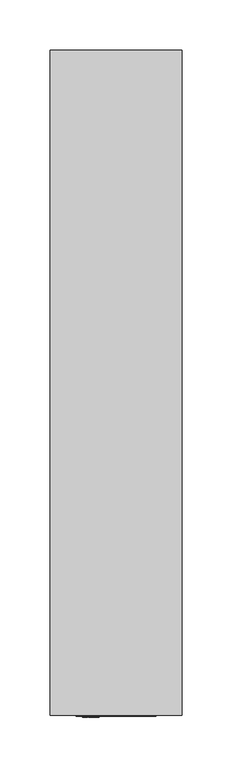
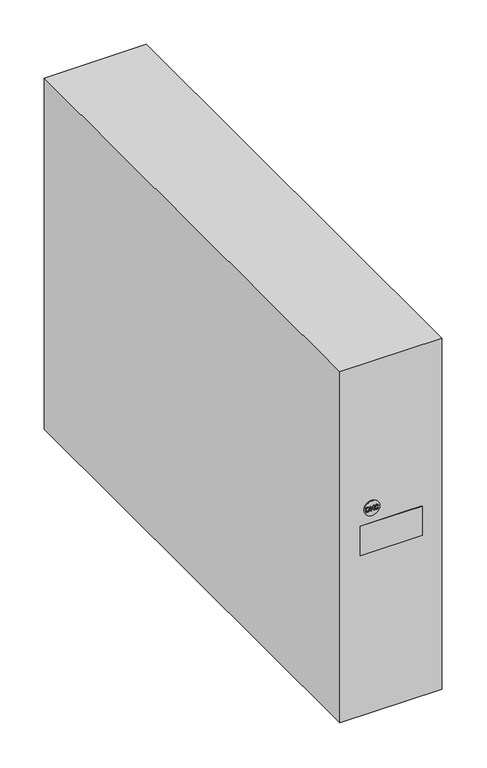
"""IFC4 building model written with IfcOpenShell, lengths in millimetres: proxy geometry, НВО_КНС_ОнлайнИБПSmallConvert_DKC : SMALLC2A10I."""

from ifc_helpers import new_model, si_unit, point, frame, frame_2d, origin, origin_with_axes, place, context, project, spatial, polyline, circle_curve, trimmed, segment, composite_curve, outline, extrude, source, transform, mapped, element, save


def electrical_equipment_30037361(model_context):
    return source(origin(), model_context, "Body", "SweptSolid", [
        extrude(outline(polyline([(278.0, -33.1463789), (278.0, -30.967046), (278.103007, -29.9980448), (278.9520786, -28.7273804), (279.829845, -28.3153525), (281.0460629, -28.154956), (282.4793312, -28.391872), (283.5094008, -29.1055631), (283.9405585, -29.9914229), (284.0273786, -31.0671099), (284.0273786, -33.1463789), (278.0, -33.1463789)]), holes=[polyline([(278.7534223, -32.3929566), (283.2739563, -32.3929566), (283.2739563, -31.0803536), (283.153291, -30.0120243), (282.4852173, -29.2299072), (281.0578351, -28.9083783), (279.9181367, -29.0724537), (278.8623154, -30.0900153), (278.7534223, -31.0597522), (278.7534223, -32.3929566)])]), frame((0.0, -2.0, 0.0), z_axis=(0.0, 1.0, 0.0), x_axis=(0.0, 0.0, 1.0)), (0.0, 0.0, 1.0), 6.0),
        extrude(outline(polyline([(278.0, -26.7422891), (280.0719114, -26.365578), (281.0401768, -25.3502237), (278.0, -23.0487539), (278.0, -22.1275774), (281.5493255, -24.816059), (284.0273786, -22.2217552), (284.0273786, -23.2753692), (281.076965, -26.365578), (284.0273786, -27.1190003), (278.0, -26.7422891)])), frame((0.0, -2.0, 0.0), z_axis=(0.0, 1.0, 0.0), x_axis=(0.0, 0.0, 1.0)), (0.0, 0.0, 1.0), 6.0),
        extrude(outline(polyline([(280.1425447, -17.3245101), (279.0330126, -17.963889), (278.6592445, -19.1168311), (278.9336845, -20.1564657), (279.7628905, -20.8642706), (281.0607782, -21.0916217), (282.180611, -20.8995873), (283.0458694, -20.2337209), (283.3681341, -19.055027), (283.0775073, -18.0367296), (282.3307068, -16.6652655), (283.652139, -17.5165445), (284.1215564, -19.0255964), (283.7588248, -20.4735799), (282.6971173, -21.4881985), (281.0593067, -21.845044), (279.4479835, -21.5294013), (278.3016632, -20.6096963), (277.9058222, -19.0417832), (278.4289504, -17.4643052), (280.1425447, -17.3245101)])), frame((0.0, -2.0, 0.0), z_axis=(0.0, 1.0, 0.0), x_axis=(0.0, 0.0, 1.0)), (0.0, 0.0, 1.0), 6.0),
        extrude(outline(composite_curve([segment(trimmed(circle_curve(frame_2d((281.0, -25.0)), 10.0), [point((281.0, -35.0))], [point((281.0, -15.0))], False, "CARTESIAN"), True, "CONTINUOUS"), segment(trimmed(circle_curve(frame_2d((281.0, -25.0)), 10.0), [point((281.0, -15.0))], [point((281.0, -35.0))], False, "CARTESIAN"), True, "CONTINUOUS")], self_intersect=False)), frame((0.0, -1.0, 0.0), z_axis=(0.0, 1.0, 0.0), x_axis=(0.0, 0.0, 1.0)), (0.0, 0.0, 1.0), 10.0),
        extrude(outline(polyline([(66.0, 0.0), (-66.0, 0.0), (-66.0, 665.0), (66.0, 665.0), (66.0, 0.0)])), origin_with_axes(), (0.0, 0.0, 1.0), 482.0),
        extrude(outline(polyline([(40.0, -1.0), (-40.0, -1.0), (-40.0, 0.0), (40.0, 0.0), (40.0, -1.0)])), frame((0.0, 0.0, 221.0), z_axis=(0.0, 0.0, 1.0), x_axis=(1.0, 0.0, 0.0)), (0.0, 0.0, 1.0), 40.0),
    ])


if __name__ == "__main__":
    model = new_model("IFC4")
    model_context = context("Model", 3, world=origin())
    ifc_project = project(units=[si_unit("LENGTHUNIT", "METRE", prefix="MILLI")], contexts=[model_context])
    site = spatial("IfcSite", under=ifc_project)
    building = spatial("IfcBuilding", under=site)
    placement = place(None, origin())
    electrical_equipment_shape = electrical_equipment_30037361(model_context)
    element("IfcBuildingElementProxy", 1, Name="НВО_КНС_ОнлайнИБПSmallConvert_DKC : SMALLC2A10I", ObjectType="НВО_КНС_ОнлайнИБПSmallConvert_DKC : SMALLC2A10I", at=placement, inside=building, context=model_context, shape_type="MappedRepresentation", body=[
        mapped(electrical_equipment_shape, transform((0.0, 0.0, 0.0), x_axis=(1.0, 0.0, 0.0), y_axis=(0.0, 1.0, 0.0), z_axis=(0.0, 0.0, 1.0))),
    ])
    save(model, "model.ifc")
